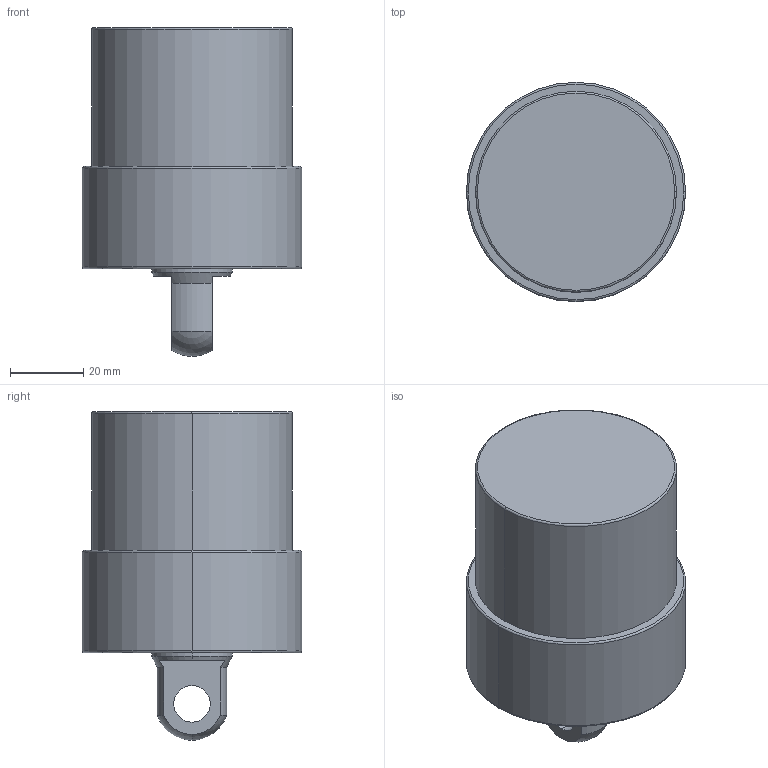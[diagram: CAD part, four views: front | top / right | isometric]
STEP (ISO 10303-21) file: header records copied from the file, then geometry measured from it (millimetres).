
FILE_DESCRIPTION (( 'STEP AP203' ), '1' );
FILE_NAME ('CLLU055-CP-025.STEP', '2017-05-12T10:42:43', ( '' ), ( '' ), 'SwSTEP 2.0', 'SolidWorks 2015', '' );
FILE_SCHEMA (( 'CONFIG_CONTROL_DESIGN' ));
Length unit declared in the file: millimetre
Products named in the file (1): CLLU055-CP-025
Bounding box: 60 x 60 x 90 mm (x, y, z)
Volume: 171678.9 mm3; surface area: 19819.7 mm2
Topology: 1 solids, 1 shells, 57 faces, 130 edges, 75 vertices
Faces by surface type: cylinder 22, cone 18, plane 9, torus 6, sphere 2
Entity records: 1643 total; most frequent: DIRECTION 308, CARTESIAN_POINT 267, ORIENTED_EDGE 244, AXIS2_PLACEMENT_3D 132, EDGE_CURVE 122, VERTEX_POINT 75, CIRCLE 74, EDGE_LOOP 67
